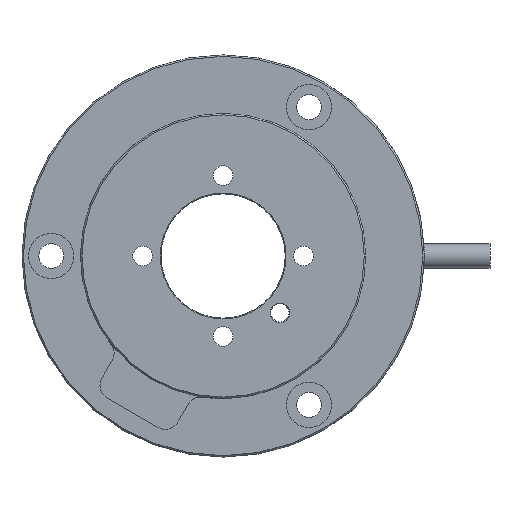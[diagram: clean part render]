
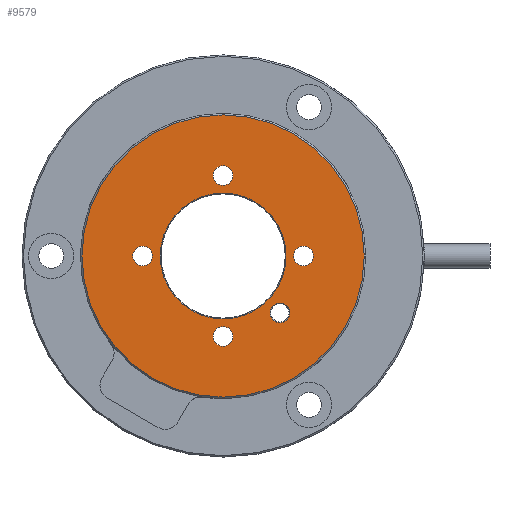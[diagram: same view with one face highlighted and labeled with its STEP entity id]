
A CAD part, front view. The second image highlights one B-rep face of the part: STEP entity #9579.
In plain terms, the highlighted planar face has unit normal (0, -1, 0).
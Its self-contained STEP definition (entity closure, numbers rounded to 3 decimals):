
#150 = ORIENTED_EDGE ( 'NONE', *, *, #8345, .T. ) ;
#175 = EDGE_LOOP ( 'NONE', ( #1459, #4898 ) ) ;
#395 = CARTESIAN_POINT ( 'NONE',  ( 0., -7.8, -11. ) ) ;
#515 = CIRCLE ( 'NONE', #3378, 19.3 ) ;
#556 = VERTEX_POINT ( 'NONE', #9251 ) ;
#603 = DIRECTION ( 'NONE',  ( 0., 1., 0. ) ) ;
#648 = VERTEX_POINT ( 'NONE', #6238 ) ;
#714 = CIRCLE ( 'NONE', #6261, 1.35 ) ;
#757 = AXIS2_PLACEMENT_3D ( 'NONE', #9834, #10466, #3190 ) ;
#901 = CIRCLE ( 'NONE', #7160, 1.35 ) ;
#1025 = VERTEX_POINT ( 'NONE', #7684 ) ;
#1222 = EDGE_CURVE ( 'NONE', #1025, #4488, #10328, .T. ) ;
#1346 = DIRECTION ( 'NONE',  ( 0., 0., 1. ) ) ;
#1459 = ORIENTED_EDGE ( 'NONE', *, *, #4857, .T. ) ;
#1487 = ORIENTED_EDGE ( 'NONE', *, *, #2276, .T. ) ;
#1582 = VERTEX_POINT ( 'NONE', #3450 ) ;
#1598 = DIRECTION ( 'NONE',  ( 0., 0., 1. ) ) ;
#1665 = DIRECTION ( 'NONE',  ( 0., 1., 0. ) ) ;
#1788 = CARTESIAN_POINT ( 'NONE',  ( 0., -7.8, 0. ) ) ;
#1805 = CARTESIAN_POINT ( 'NONE',  ( 11., -7.8, -1.35 ) ) ;
#2081 = DIRECTION ( 'NONE',  ( 0., 0., 1. ) ) ;
#2094 = VERTEX_POINT ( 'NONE', #10284 ) ;
#2199 = ORIENTED_EDGE ( 'NONE', *, *, #2376, .T. ) ;
#2203 = CARTESIAN_POINT ( 'NONE',  ( 11., -7.8, 0. ) ) ;
#2276 = EDGE_CURVE ( 'NONE', #2948, #556, #515, .T. ) ;
#2350 = CARTESIAN_POINT ( 'NONE',  ( 0., -7.8, 19.3 ) ) ;
#2376 = EDGE_CURVE ( 'NONE', #2094, #5397, #3494, .T. ) ;
#2399 = FACE_BOUND ( 'NONE', #2442, .T. ) ;
#2442 = EDGE_LOOP ( 'NONE', ( #3472, #3300 ) ) ;
#2537 = CARTESIAN_POINT ( 'NONE',  ( -11., -7.8, 1.35 ) ) ;
#2700 = AXIS2_PLACEMENT_3D ( 'NONE', #395, #603, #2081 ) ;
#2880 = CARTESIAN_POINT ( 'NONE',  ( 7.778, -7.8, -7.778 ) ) ;
#2925 = FACE_BOUND ( 'NONE', #7822, .T. ) ;
#2948 = VERTEX_POINT ( 'NONE', #2350 ) ;
#3031 = DIRECTION ( 'NONE',  ( 0., 1., 0. ) ) ;
#3190 = DIRECTION ( 'NONE',  ( 0., 0., 1. ) ) ;
#3268 = AXIS2_PLACEMENT_3D ( 'NONE', #10170, #8413, #5881 ) ;
#3300 = ORIENTED_EDGE ( 'NONE', *, *, #1222, .T. ) ;
#3378 = AXIS2_PLACEMENT_3D ( 'NONE', #7610, #7562, #5188 ) ;
#3450 = CARTESIAN_POINT ( 'NONE',  ( 7.778, -7.8, -6.428 ) ) ;
#3459 = CARTESIAN_POINT ( 'NONE',  ( 0., -7.8, -11. ) ) ;
#3472 = ORIENTED_EDGE ( 'NONE', *, *, #8216, .T. ) ;
#3494 = CIRCLE ( 'NONE', #9943, 1.35 ) ;
#3676 = ORIENTED_EDGE ( 'NONE', *, *, #8031, .T. ) ;
#3745 = CIRCLE ( 'NONE', #9367, 8.6 ) ;
#3978 = PLANE ( 'NONE',  #757 ) ;
#4117 = EDGE_LOOP ( 'NONE', ( #2199, #10295 ) ) ;
#4119 = VERTEX_POINT ( 'NONE', #7601 ) ;
#4145 = ORIENTED_EDGE ( 'NONE', *, *, #10047, .T. ) ;
#4326 = EDGE_CURVE ( 'NONE', #5397, #2094, #714, .T. ) ;
#4353 = DIRECTION ( 'NONE',  ( 0., 1., 0. ) ) ;
#4436 = AXIS2_PLACEMENT_3D ( 'NONE', #2880, #4353, #9970 ) ;
#4488 = VERTEX_POINT ( 'NONE', #9783 ) ;
#4506 = FACE_BOUND ( 'NONE', #7475, .T. ) ;
#4709 = DIRECTION ( 'NONE',  ( 0., 0., 1. ) ) ;
#4730 = DIRECTION ( 'NONE',  ( 0., 1., 0. ) ) ;
#4857 = EDGE_CURVE ( 'NONE', #5748, #1582, #901, .T. ) ;
#4898 = ORIENTED_EDGE ( 'NONE', *, *, #5879, .T. ) ;
#4967 = VERTEX_POINT ( 'NONE', #2537 ) ;
#4975 = DIRECTION ( 'NONE',  ( 0., 0., 1. ) ) ;
#4976 = DIRECTION ( 'NONE',  ( 0., 0., 1. ) ) ;
#4988 = DIRECTION ( 'NONE',  ( 0., 0., 1. ) ) ;
#5049 = CARTESIAN_POINT ( 'NONE',  ( 0., -7.8, 8.6 ) ) ;
#5181 = ORIENTED_EDGE ( 'NONE', *, *, #7242, .T. ) ;
#5183 = CARTESIAN_POINT ( 'NONE',  ( -11., -7.8, 0. ) ) ;
#5188 = DIRECTION ( 'NONE',  ( 0., 0., 1. ) ) ;
#5233 = DIRECTION ( 'NONE',  ( 0., 0., 1. ) ) ;
#5336 = FACE_BOUND ( 'NONE', #4117, .T. ) ;
#5380 = EDGE_LOOP ( 'NONE', ( #150, #4145 ) ) ;
#5397 = VERTEX_POINT ( 'NONE', #1805 ) ;
#5470 = AXIS2_PLACEMENT_3D ( 'NONE', #5183, #9277, #5233 ) ;
#5596 = AXIS2_PLACEMENT_3D ( 'NONE', #3459, #6687, #1598 ) ;
#5748 = VERTEX_POINT ( 'NONE', #9542 ) ;
#5754 = CARTESIAN_POINT ( 'NONE',  ( 0., -7.8, 11. ) ) ;
#5813 = CARTESIAN_POINT ( 'NONE',  ( -11., -7.8, 0. ) ) ;
#5879 = EDGE_CURVE ( 'NONE', #1582, #5748, #9715, .T. ) ;
#5881 = DIRECTION ( 'NONE',  ( 0., 0., 1. ) ) ;
#5917 = EDGE_CURVE ( 'NONE', #556, #2948, #7844, .T. ) ;
#6066 = EDGE_CURVE ( 'NONE', #4119, #6247, #7851, .T. ) ;
#6159 = DIRECTION ( 'NONE',  ( 0., 1., 0. ) ) ;
#6238 = CARTESIAN_POINT ( 'NONE',  ( 0., -7.8, 12.35 ) ) ;
#6247 = VERTEX_POINT ( 'NONE', #5049 ) ;
#6258 = ORIENTED_EDGE ( 'NONE', *, *, #5917, .T. ) ;
#6261 = AXIS2_PLACEMENT_3D ( 'NONE', #7647, #8398, #9253 ) ;
#6459 = CARTESIAN_POINT ( 'NONE',  ( -11., -7.8, -1.35 ) ) ;
#6539 = AXIS2_PLACEMENT_3D ( 'NONE', #5754, #9040, #4975 ) ;
#6687 = DIRECTION ( 'NONE',  ( 0., 1., 0. ) ) ;
#6744 = EDGE_LOOP ( 'NONE', ( #1487, #6258 ) ) ;
#6810 = CIRCLE ( 'NONE', #5596, 1.35 ) ;
#6866 = CIRCLE ( 'NONE', #8743, 1.35 ) ;
#6981 = AXIS2_PLACEMENT_3D ( 'NONE', #5813, #1665, #4976 ) ;
#7160 = AXIS2_PLACEMENT_3D ( 'NONE', #9606, #4730, #9981 ) ;
#7189 = DIRECTION ( 'NONE',  ( 0., 0., 1. ) ) ;
#7242 = EDGE_CURVE ( 'NONE', #648, #7656, #10271, .T. ) ;
#7475 = EDGE_LOOP ( 'NONE', ( #7808, #3676 ) ) ;
#7562 = DIRECTION ( 'NONE',  ( 0., -1., 0. ) ) ;
#7601 = CARTESIAN_POINT ( 'NONE',  ( 0., -7.8, -8.6 ) ) ;
#7610 = CARTESIAN_POINT ( 'NONE',  ( 0., -7.8, 0. ) ) ;
#7647 = CARTESIAN_POINT ( 'NONE',  ( 11., -7.8, 0. ) ) ;
#7656 = VERTEX_POINT ( 'NONE', #9224 ) ;
#7684 = CARTESIAN_POINT ( 'NONE',  ( 0., -7.8, -12.35 ) ) ;
#7808 = ORIENTED_EDGE ( 'NONE', *, *, #6066, .T. ) ;
#7822 = EDGE_LOOP ( 'NONE', ( #5181, #9924 ) ) ;
#7831 = CIRCLE ( 'NONE', #6981, 1.35 ) ;
#7844 = CIRCLE ( 'NONE', #3268, 19.3 ) ;
#7851 = CIRCLE ( 'NONE', #10079, 8.6 ) ;
#8031 = EDGE_CURVE ( 'NONE', #6247, #4119, #3745, .T. ) ;
#8115 = VERTEX_POINT ( 'NONE', #6459 ) ;
#8216 = EDGE_CURVE ( 'NONE', #4488, #1025, #6810, .T. ) ;
#8345 = EDGE_CURVE ( 'NONE', #4967, #8115, #7831, .T. ) ;
#8398 = DIRECTION ( 'NONE',  ( 0., 1., 0. ) ) ;
#8413 = DIRECTION ( 'NONE',  ( 0., -1., 0. ) ) ;
#8567 = FACE_BOUND ( 'NONE', #175, .T. ) ;
#8616 = FACE_BOUND ( 'NONE', #5380, .T. ) ;
#8743 = AXIS2_PLACEMENT_3D ( 'NONE', #9433, #6159, #1346 ) ;
#9040 = DIRECTION ( 'NONE',  ( 0., 1., 0. ) ) ;
#9224 = CARTESIAN_POINT ( 'NONE',  ( 0., -7.8, 9.65 ) ) ;
#9251 = CARTESIAN_POINT ( 'NONE',  ( 0., -7.8, -19.3 ) ) ;
#9253 = DIRECTION ( 'NONE',  ( 0., 0., 1. ) ) ;
#9273 = DIRECTION ( 'NONE',  ( 0., 1., 0. ) ) ;
#9277 = DIRECTION ( 'NONE',  ( 0., 1., 0. ) ) ;
#9367 = AXIS2_PLACEMENT_3D ( 'NONE', #1788, #9273, #4988 ) ;
#9379 = CARTESIAN_POINT ( 'NONE',  ( 0., -7.8, 0. ) ) ;
#9433 = CARTESIAN_POINT ( 'NONE',  ( 0., -7.8, 11. ) ) ;
#9542 = CARTESIAN_POINT ( 'NONE',  ( 7.778, -7.8, -9.128 ) ) ;
#9579 = ADVANCED_FACE ( 'NONE', ( #8567, #4506, #10210, #5336, #2925, #8616, #2399 ), #3978, .F. ) ;
#9606 = CARTESIAN_POINT ( 'NONE',  ( 7.778, -7.8, -7.778 ) ) ;
#9715 = CIRCLE ( 'NONE', #4436, 1.35 ) ;
#9783 = CARTESIAN_POINT ( 'NONE',  ( 0., -7.8, -9.65 ) ) ;
#9834 = CARTESIAN_POINT ( 'NONE',  ( 0., -7.8, 0. ) ) ;
#9924 = ORIENTED_EDGE ( 'NONE', *, *, #10071, .T. ) ;
#9943 = AXIS2_PLACEMENT_3D ( 'NONE', #2203, #10272, #7189 ) ;
#9970 = DIRECTION ( 'NONE',  ( 0., 0., 1. ) ) ;
#9981 = DIRECTION ( 'NONE',  ( 0., 0., 1. ) ) ;
#10047 = EDGE_CURVE ( 'NONE', #8115, #4967, #10103, .T. ) ;
#10071 = EDGE_CURVE ( 'NONE', #7656, #648, #6866, .T. ) ;
#10079 = AXIS2_PLACEMENT_3D ( 'NONE', #9379, #3031, #4709 ) ;
#10103 = CIRCLE ( 'NONE', #5470, 1.35 ) ;
#10170 = CARTESIAN_POINT ( 'NONE',  ( 0., -7.8, 0. ) ) ;
#10210 = FACE_OUTER_BOUND ( 'NONE', #6744, .T. ) ;
#10271 = CIRCLE ( 'NONE', #6539, 1.35 ) ;
#10272 = DIRECTION ( 'NONE',  ( 0., 1., 0. ) ) ;
#10284 = CARTESIAN_POINT ( 'NONE',  ( 11., -7.8, 1.35 ) ) ;
#10295 = ORIENTED_EDGE ( 'NONE', *, *, #4326, .T. ) ;
#10328 = CIRCLE ( 'NONE', #2700, 1.35 ) ;
#10466 = DIRECTION ( 'NONE',  ( 0., 1., 0. ) ) ;
